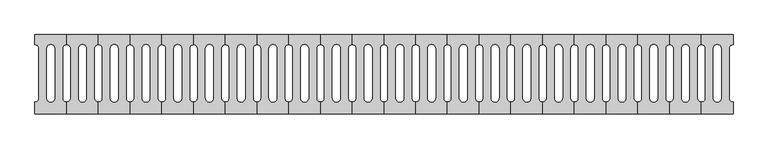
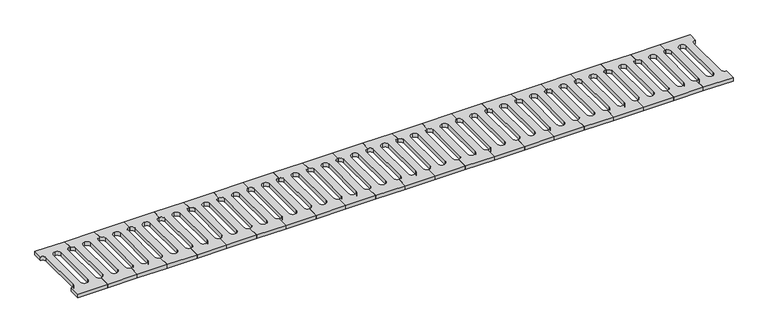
"""IFC4 building model written with IfcOpenShell, lengths in millimetres: proxy geometry, 排水沟盖板 : 排水沟盖板."""

from ifc_helpers import new_model, si_unit, point, frame, frame_2d, origin, place, context, project, spatial, polyline, circle_curve, trimmed, segment, composite_curve, outline, extrude, source, transform, mapped, element, save


def generic_models_7e917ab8(model_context):
    return source(origin(), model_context, "Body", "SweptSolid", [
        extrude(outline(composite_curve([segment(polyline([(9600.0, -200.0), (9440.0, -200.0), (9440.0, -140.0)]), True, "CONTINUOUS"), segment(trimmed(circle_curve(frame_2d((9440.0, -120.0)), 20.0), [point((9440.0, -140.0))], [point((9460.0, -120.0))], True, "CARTESIAN"), True, "CONTINUOUS"), segment(polyline([(9460.0, -120.0), (9460.0, 130.0)]), True, "CONTINUOUS"), segment(trimmed(circle_curve(frame_2d((9440.0, 130.0)), 20.0), [point((9460.0, 130.0))], [point((9440.0, 150.0))], True, "CARTESIAN"), True, "CONTINUOUS"), segment(polyline([(9440.0, 150.0), (9440.0, 200.0), (9600.0, 200.0), (9600.0, 150.0)]), True, "CONTINUOUS"), segment(trimmed(circle_curve(frame_2d((9600.0, 130.0)), 20.0), [point((9600.0, 150.0))], [point((9580.0, 130.0))], True, "CARTESIAN"), True, "CONTINUOUS"), segment(polyline([(9580.0, 130.0), (9580.0, -120.0)]), True, "CONTINUOUS"), segment(trimmed(circle_curve(frame_2d((9600.0, -120.0)), 20.0), [point((9580.0, -120.0))], [point((9600.0, -140.0))], True, "CARTESIAN"), True, "CONTINUOUS"), segment(polyline([(9600.0, -140.0), (9600.0, -200.0)]), True, "CONTINUOUS")], self_intersect=False), holes=[composite_curve([segment(polyline([(9500.0, 130.0), (9500.0, -120.0)]), True, "CONTINUOUS"), segment(trimmed(circle_curve(frame_2d((9520.0, -120.0)), 20.0), [point((9500.0, -120.0))], [point((9520.0, -140.0))], True, "CARTESIAN"), True, "CONTINUOUS"), segment(trimmed(circle_curve(frame_2d((9520.0, -120.0)), 20.0), [point((9520.0, -140.0))], [point((9540.0, -120.0))], True, "CARTESIAN"), True, "CONTINUOUS"), segment(polyline([(9540.0, -120.0), (9540.0, 130.0)]), True, "CONTINUOUS"), segment(trimmed(circle_curve(frame_2d((9520.0, 130.0)), 20.0), [point((9540.0, 130.0))], [point((9520.0, 150.0))], True, "CARTESIAN"), True, "CONTINUOUS"), segment(trimmed(circle_curve(frame_2d((9520.0, 130.0)), 20.0), [point((9520.0, 150.0))], [point((9500.0, 130.0))], True, "CARTESIAN"), True, "CONTINUOUS")], self_intersect=False)]), frame((0.0, 0.0, -20.0), z_axis=(0.0, 0.0, 1.0), x_axis=(1.0, 0.0, 0.0)), (0.0, 0.0, 1.0), 20.0),
        extrude(outline(composite_curve([segment(polyline([(9440.0, -200.0), (9280.0, -200.0), (9280.0, -140.0)]), True, "CONTINUOUS"), segment(trimmed(circle_curve(frame_2d((9280.0, -120.0)), 20.0), [point((9280.0, -140.0))], [point((9300.0, -120.0))], True, "CARTESIAN"), True, "CONTINUOUS"), segment(polyline([(9300.0, -120.0), (9300.0, 130.0)]), True, "CONTINUOUS"), segment(trimmed(circle_curve(frame_2d((9280.0, 130.0)), 20.0), [point((9300.0, 130.0))], [point((9280.0, 150.0))], True, "CARTESIAN"), True, "CONTINUOUS"), segment(polyline([(9280.0, 150.0), (9280.0, 200.0), (9440.0, 200.0), (9440.0, 150.0)]), True, "CONTINUOUS"), segment(trimmed(circle_curve(frame_2d((9440.0, 130.0)), 20.0), [point((9440.0, 150.0))], [point((9420.0, 130.0))], True, "CARTESIAN"), True, "CONTINUOUS"), segment(polyline([(9420.0, 130.0), (9420.0, -120.0)]), True, "CONTINUOUS"), segment(trimmed(circle_curve(frame_2d((9440.0, -120.0)), 20.0), [point((9420.0, -120.0))], [point((9440.0, -140.0))], True, "CARTESIAN"), True, "CONTINUOUS"), segment(polyline([(9440.0, -140.0), (9440.0, -200.0)]), True, "CONTINUOUS")], self_intersect=False), holes=[composite_curve([segment(polyline([(9340.0, 130.0), (9340.0, -120.0)]), True, "CONTINUOUS"), segment(trimmed(circle_curve(frame_2d((9360.0, -120.0)), 20.0), [point((9340.0, -120.0))], [point((9360.0, -140.0))], True, "CARTESIAN"), True, "CONTINUOUS"), segment(trimmed(circle_curve(frame_2d((9360.0, -120.0)), 20.0), [point((9360.0, -140.0))], [point((9380.0, -120.0))], True, "CARTESIAN"), True, "CONTINUOUS"), segment(polyline([(9380.0, -120.0), (9380.0, 130.0)]), True, "CONTINUOUS"), segment(trimmed(circle_curve(frame_2d((9360.0, 130.0)), 20.0), [point((9380.0, 130.0))], [point((9360.0, 150.0))], True, "CARTESIAN"), True, "CONTINUOUS"), segment(trimmed(circle_curve(frame_2d((9360.0, 130.0)), 20.0), [point((9360.0, 150.0))], [point((9340.0, 130.0))], True, "CARTESIAN"), True, "CONTINUOUS")], self_intersect=False)]), frame((0.0, 0.0, -20.0), z_axis=(0.0, 0.0, 1.0), x_axis=(1.0, 0.0, 0.0)), (0.0, 0.0, 1.0), 20.0),
        extrude(outline(composite_curve([segment(polyline([(9280.0, -200.0), (9120.0, -200.0), (9120.0, -140.0)]), True, "CONTINUOUS"), segment(trimmed(circle_curve(frame_2d((9120.0, -120.0)), 20.0), [point((9120.0, -140.0))], [point((9140.0, -120.0))], True, "CARTESIAN"), True, "CONTINUOUS"), segment(polyline([(9140.0, -120.0), (9140.0, 130.0)]), True, "CONTINUOUS"), segment(trimmed(circle_curve(frame_2d((9120.0, 130.0)), 20.0), [point((9140.0, 130.0))], [point((9120.0, 150.0))], True, "CARTESIAN"), True, "CONTINUOUS"), segment(polyline([(9120.0, 150.0), (9120.0, 200.0), (9280.0, 200.0), (9280.0, 150.0)]), True, "CONTINUOUS"), segment(trimmed(circle_curve(frame_2d((9280.0, 130.0)), 20.0), [point((9280.0, 150.0))], [point((9260.0, 130.0))], True, "CARTESIAN"), True, "CONTINUOUS"), segment(polyline([(9260.0, 130.0), (9260.0, -120.0)]), True, "CONTINUOUS"), segment(trimmed(circle_curve(frame_2d((9280.0, -120.0)), 20.0), [point((9260.0, -120.0))], [point((9280.0, -140.0))], True, "CARTESIAN"), True, "CONTINUOUS"), segment(polyline([(9280.0, -140.0), (9280.0, -200.0)]), True, "CONTINUOUS")], self_intersect=False), holes=[composite_curve([segment(polyline([(9180.0, 130.0), (9180.0, -120.0)]), True, "CONTINUOUS"), segment(trimmed(circle_curve(frame_2d((9200.0, -120.0)), 20.0), [point((9180.0, -120.0))], [point((9200.0, -140.0))], True, "CARTESIAN"), True, "CONTINUOUS"), segment(trimmed(circle_curve(frame_2d((9200.0, -120.0)), 20.0), [point((9200.0, -140.0))], [point((9220.0, -120.0))], True, "CARTESIAN"), True, "CONTINUOUS"), segment(polyline([(9220.0, -120.0), (9220.0, 130.0)]), True, "CONTINUOUS"), segment(trimmed(circle_curve(frame_2d((9200.0, 130.0)), 20.0), [point((9220.0, 130.0))], [point((9200.0, 150.0))], True, "CARTESIAN"), True, "CONTINUOUS"), segment(trimmed(circle_curve(frame_2d((9200.0, 130.0)), 20.0), [point((9200.0, 150.0))], [point((9180.0, 130.0))], True, "CARTESIAN"), True, "CONTINUOUS")], self_intersect=False)]), frame((0.0, 0.0, -20.0), z_axis=(0.0, 0.0, 1.0), x_axis=(1.0, 0.0, 0.0)), (0.0, 0.0, 1.0), 20.0),
        extrude(outline(composite_curve([segment(polyline([(9120.0, -200.0), (8960.0, -200.0), (8960.0, -140.0)]), True, "CONTINUOUS"), segment(trimmed(circle_curve(frame_2d((8960.0, -120.0)), 20.0), [point((8960.0, -140.0))], [point((8980.0, -120.0))], True, "CARTESIAN"), True, "CONTINUOUS"), segment(polyline([(8980.0, -120.0), (8980.0, 130.0)]), True, "CONTINUOUS"), segment(trimmed(circle_curve(frame_2d((8960.0, 130.0)), 20.0), [point((8980.0, 130.0))], [point((8960.0, 150.0))], True, "CARTESIAN"), True, "CONTINUOUS"), segment(polyline([(8960.0, 150.0), (8960.0, 200.0), (9120.0, 200.0), (9120.0, 150.0)]), True, "CONTINUOUS"), segment(trimmed(circle_curve(frame_2d((9120.0, 130.0)), 20.0), [point((9120.0, 150.0))], [point((9100.0, 130.0))], True, "CARTESIAN"), True, "CONTINUOUS"), segment(polyline([(9100.0, 130.0), (9100.0, -120.0)]), True, "CONTINUOUS"), segment(trimmed(circle_curve(frame_2d((9120.0, -120.0)), 20.0), [point((9100.0, -120.0))], [point((9120.0, -140.0))], True, "CARTESIAN"), True, "CONTINUOUS"), segment(polyline([(9120.0, -140.0), (9120.0, -200.0)]), True, "CONTINUOUS")], self_intersect=False), holes=[composite_curve([segment(polyline([(9020.0, 130.0), (9020.0, -120.0)]), True, "CONTINUOUS"), segment(trimmed(circle_curve(frame_2d((9040.0, -120.0)), 20.0), [point((9020.0, -120.0))], [point((9040.0, -140.0))], True, "CARTESIAN"), True, "CONTINUOUS"), segment(trimmed(circle_curve(frame_2d((9040.0, -120.0)), 20.0), [point((9040.0, -140.0))], [point((9060.0, -120.0))], True, "CARTESIAN"), True, "CONTINUOUS"), segment(polyline([(9060.0, -120.0), (9060.0, 130.0)]), True, "CONTINUOUS"), segment(trimmed(circle_curve(frame_2d((9040.0, 130.0)), 20.0), [point((9060.0, 130.0))], [point((9040.0, 150.0))], True, "CARTESIAN"), True, "CONTINUOUS"), segment(trimmed(circle_curve(frame_2d((9040.0, 130.0)), 20.0), [point((9040.0, 150.0))], [point((9020.0, 130.0))], True, "CARTESIAN"), True, "CONTINUOUS")], self_intersect=False)]), frame((0.0, 0.0, -20.0), z_axis=(0.0, 0.0, 1.0), x_axis=(1.0, 0.0, 0.0)), (0.0, 0.0, 1.0), 20.0),
        extrude(outline(composite_curve([segment(polyline([(8960.0, -200.0), (8800.0, -200.0), (8800.0, -140.0)]), True, "CONTINUOUS"), segment(trimmed(circle_curve(frame_2d((8800.0, -120.0)), 20.0), [point((8800.0, -140.0))], [point((8820.0, -120.0))], True, "CARTESIAN"), True, "CONTINUOUS"), segment(polyline([(8820.0, -120.0), (8820.0, 130.0)]), True, "CONTINUOUS"), segment(trimmed(circle_curve(frame_2d((8800.0, 130.0)), 20.0), [point((8820.0, 130.0))], [point((8800.0, 150.0))], True, "CARTESIAN"), True, "CONTINUOUS"), segment(polyline([(8800.0, 150.0), (8800.0, 200.0), (8960.0, 200.0), (8960.0, 150.0)]), True, "CONTINUOUS"), segment(trimmed(circle_curve(frame_2d((8960.0, 130.0)), 20.0), [point((8960.0, 150.0))], [point((8940.0, 130.0))], True, "CARTESIAN"), True, "CONTINUOUS"), segment(polyline([(8940.0, 130.0), (8940.0, -120.0)]), True, "CONTINUOUS"), segment(trimmed(circle_curve(frame_2d((8960.0, -120.0)), 20.0), [point((8940.0, -120.0))], [point((8960.0, -140.0))], True, "CARTESIAN"), True, "CONTINUOUS"), segment(polyline([(8960.0, -140.0), (8960.0, -200.0)]), True, "CONTINUOUS")], self_intersect=False), holes=[composite_curve([segment(polyline([(8860.0, 130.0), (8860.0, -120.0)]), True, "CONTINUOUS"), segment(trimmed(circle_curve(frame_2d((8880.0, -120.0)), 20.0), [point((8860.0, -120.0))], [point((8880.0, -140.0))], True, "CARTESIAN"), True, "CONTINUOUS"), segment(trimmed(circle_curve(frame_2d((8880.0, -120.0)), 20.0), [point((8880.0, -140.0))], [point((8900.0, -120.0))], True, "CARTESIAN"), True, "CONTINUOUS"), segment(polyline([(8900.0, -120.0), (8900.0, 130.0)]), True, "CONTINUOUS"), segment(trimmed(circle_curve(frame_2d((8880.0, 130.0)), 20.0), [point((8900.0, 130.0))], [point((8880.0, 150.0))], True, "CARTESIAN"), True, "CONTINUOUS"), segment(trimmed(circle_curve(frame_2d((8880.0, 130.0)), 20.0), [point((8880.0, 150.0))], [point((8860.0, 130.0))], True, "CARTESIAN"), True, "CONTINUOUS")], self_intersect=False)]), frame((0.0, 0.0, -20.0), z_axis=(0.0, 0.0, 1.0), x_axis=(1.0, 0.0, 0.0)), (0.0, 0.0, 1.0), 20.0),
        extrude(outline(composite_curve([segment(polyline([(8800.0, -200.0), (8640.0, -200.0), (8640.0, -140.0)]), True, "CONTINUOUS"), segment(trimmed(circle_curve(frame_2d((8640.0, -120.0)), 20.0), [point((8640.0, -140.0))], [point((8660.0, -120.0))], True, "CARTESIAN"), True, "CONTINUOUS"), segment(polyline([(8660.0, -120.0), (8660.0, 130.0)]), True, "CONTINUOUS"), segment(trimmed(circle_curve(frame_2d((8640.0, 130.0)), 20.0), [point((8660.0, 130.0))], [point((8640.0, 150.0))], True, "CARTESIAN"), True, "CONTINUOUS"), segment(polyline([(8640.0, 150.0), (8640.0, 200.0), (8800.0, 200.0), (8800.0, 150.0)]), True, "CONTINUOUS"), segment(trimmed(circle_curve(frame_2d((8800.0, 130.0)), 20.0), [point((8800.0, 150.0))], [point((8780.0, 130.0))], True, "CARTESIAN"), True, "CONTINUOUS"), segment(polyline([(8780.0, 130.0), (8780.0, -120.0)]), True, "CONTINUOUS"), segment(trimmed(circle_curve(frame_2d((8800.0, -120.0)), 20.0), [point((8780.0, -120.0))], [point((8800.0, -140.0))], True, "CARTESIAN"), True, "CONTINUOUS"), segment(polyline([(8800.0, -140.0), (8800.0, -200.0)]), True, "CONTINUOUS")], self_intersect=False), holes=[composite_curve([segment(polyline([(8700.0, 130.0), (8700.0, -120.0)]), True, "CONTINUOUS"), segment(trimmed(circle_curve(frame_2d((8720.0, -120.0)), 20.0), [point((8700.0, -120.0))], [point((8720.0, -140.0))], True, "CARTESIAN"), True, "CONTINUOUS"), segment(trimmed(circle_curve(frame_2d((8720.0, -120.0)), 20.0), [point((8720.0, -140.0))], [point((8740.0, -120.0))], True, "CARTESIAN"), True, "CONTINUOUS"), segment(polyline([(8740.0, -120.0), (8740.0, 130.0)]), True, "CONTINUOUS"), segment(trimmed(circle_curve(frame_2d((8720.0, 130.0)), 20.0), [point((8740.0, 130.0))], [point((8720.0, 150.0))], True, "CARTESIAN"), True, "CONTINUOUS"), segment(trimmed(circle_curve(frame_2d((8720.0, 130.0)), 20.0), [point((8720.0, 150.0))], [point((8700.0, 130.0))], True, "CARTESIAN"), True, "CONTINUOUS")], self_intersect=False)]), frame((0.0, 0.0, -20.0), z_axis=(0.0, 0.0, 1.0), x_axis=(1.0, 0.0, 0.0)), (0.0, 0.0, 1.0), 20.0),
        extrude(outline(composite_curve([segment(polyline([(8640.0, -200.0), (8480.0, -200.0), (8480.0, -140.0)]), True, "CONTINUOUS"), segment(trimmed(circle_curve(frame_2d((8480.0, -120.0)), 20.0), [point((8480.0, -140.0))], [point((8500.0, -120.0))], True, "CARTESIAN"), True, "CONTINUOUS"), segment(polyline([(8500.0, -120.0), (8500.0, 130.0)]), True, "CONTINUOUS"), segment(trimmed(circle_curve(frame_2d((8480.0, 130.0)), 20.0), [point((8500.0, 130.0))], [point((8480.0, 150.0))], True, "CARTESIAN"), True, "CONTINUOUS"), segment(polyline([(8480.0, 150.0), (8480.0, 200.0), (8640.0, 200.0), (8640.0, 150.0)]), True, "CONTINUOUS"), segment(trimmed(circle_curve(frame_2d((8640.0, 130.0)), 20.0), [point((8640.0, 150.0))], [point((8620.0, 130.0))], True, "CARTESIAN"), True, "CONTINUOUS"), segment(polyline([(8620.0, 130.0), (8620.0, -120.0)]), True, "CONTINUOUS"), segment(trimmed(circle_curve(frame_2d((8640.0, -120.0)), 20.0), [point((8620.0, -120.0))], [point((8640.0, -140.0))], True, "CARTESIAN"), True, "CONTINUOUS"), segment(polyline([(8640.0, -140.0), (8640.0, -200.0)]), True, "CONTINUOUS")], self_intersect=False), holes=[composite_curve([segment(polyline([(8540.0, 130.0), (8540.0, -120.0)]), True, "CONTINUOUS"), segment(trimmed(circle_curve(frame_2d((8560.0, -120.0)), 20.0), [point((8540.0, -120.0))], [point((8560.0, -140.0))], True, "CARTESIAN"), True, "CONTINUOUS"), segment(trimmed(circle_curve(frame_2d((8560.0, -120.0)), 20.0), [point((8560.0, -140.0))], [point((8580.0, -120.0))], True, "CARTESIAN"), True, "CONTINUOUS"), segment(polyline([(8580.0, -120.0), (8580.0, 130.0)]), True, "CONTINUOUS"), segment(trimmed(circle_curve(frame_2d((8560.0, 130.0)), 20.0), [point((8580.0, 130.0))], [point((8560.0, 150.0))], True, "CARTESIAN"), True, "CONTINUOUS"), segment(trimmed(circle_curve(frame_2d((8560.0, 130.0)), 20.0), [point((8560.0, 150.0))], [point((8540.0, 130.0))], True, "CARTESIAN"), True, "CONTINUOUS")], self_intersect=False)]), frame((0.0, 0.0, -20.0), z_axis=(0.0, 0.0, 1.0), x_axis=(1.0, 0.0, 0.0)), (0.0, 0.0, 1.0), 20.0),
        extrude(outline(composite_curve([segment(polyline([(8480.0, -200.0), (8320.0, -200.0), (8320.0, -140.0)]), True, "CONTINUOUS"), segment(trimmed(circle_curve(frame_2d((8320.0, -120.0)), 20.0), [point((8320.0, -140.0))], [point((8340.0, -120.0))], True, "CARTESIAN"), True, "CONTINUOUS"), segment(polyline([(8340.0, -120.0), (8340.0, 130.0)]), True, "CONTINUOUS"), segment(trimmed(circle_curve(frame_2d((8320.0, 130.0)), 20.0), [point((8340.0, 130.0))], [point((8320.0, 150.0))], True, "CARTESIAN"), True, "CONTINUOUS"), segment(polyline([(8320.0, 150.0), (8320.0, 200.0), (8480.0, 200.0), (8480.0, 150.0)]), True, "CONTINUOUS"), segment(trimmed(circle_curve(frame_2d((8480.0, 130.0)), 20.0), [point((8480.0, 150.0))], [point((8460.0, 130.0))], True, "CARTESIAN"), True, "CONTINUOUS"), segment(polyline([(8460.0, 130.0), (8460.0, -120.0)]), True, "CONTINUOUS"), segment(trimmed(circle_curve(frame_2d((8480.0, -120.0)), 20.0), [point((8460.0, -120.0))], [point((8480.0, -140.0))], True, "CARTESIAN"), True, "CONTINUOUS"), segment(polyline([(8480.0, -140.0), (8480.0, -200.0)]), True, "CONTINUOUS")], self_intersect=False), holes=[composite_curve([segment(polyline([(8380.0, 130.0), (8380.0, -120.0)]), True, "CONTINUOUS"), segment(trimmed(circle_curve(frame_2d((8400.0, -120.0)), 20.0), [point((8380.0, -120.0))], [point((8400.0, -140.0))], True, "CARTESIAN"), True, "CONTINUOUS"), segment(trimmed(circle_curve(frame_2d((8400.0, -120.0)), 20.0), [point((8400.0, -140.0))], [point((8420.0, -120.0))], True, "CARTESIAN"), True, "CONTINUOUS"), segment(polyline([(8420.0, -120.0), (8420.0, 130.0)]), True, "CONTINUOUS"), segment(trimmed(circle_curve(frame_2d((8400.0, 130.0)), 20.0), [point((8420.0, 130.0))], [point((8400.0, 150.0))], True, "CARTESIAN"), True, "CONTINUOUS"), segment(trimmed(circle_curve(frame_2d((8400.0, 130.0)), 20.0), [point((8400.0, 150.0))], [point((8380.0, 130.0))], True, "CARTESIAN"), True, "CONTINUOUS")], self_intersect=False)]), frame((0.0, 0.0, -20.0), z_axis=(0.0, 0.0, 1.0), x_axis=(1.0, 0.0, 0.0)), (0.0, 0.0, 1.0), 20.0),
        extrude(outline(composite_curve([segment(polyline([(8320.0, -200.0), (8160.0, -200.0), (8160.0, -140.0)]), True, "CONTINUOUS"), segment(trimmed(circle_curve(frame_2d((8160.0, -120.0)), 20.0), [point((8160.0, -140.0))], [point((8180.0, -120.0))], True, "CARTESIAN"), True, "CONTINUOUS"), segment(polyline([(8180.0, -120.0), (8180.0, 130.0)]), True, "CONTINUOUS"), segment(trimmed(circle_curve(frame_2d((8160.0, 130.0)), 20.0), [point((8180.0, 130.0))], [point((8160.0, 150.0))], True, "CARTESIAN"), True, "CONTINUOUS"), segment(polyline([(8160.0, 150.0), (8160.0, 200.0), (8320.0, 200.0), (8320.0, 150.0)]), True, "CONTINUOUS"), segment(trimmed(circle_curve(frame_2d((8320.0, 130.0)), 20.0), [point((8320.0, 150.0))], [point((8300.0, 130.0))], True, "CARTESIAN"), True, "CONTINUOUS"), segment(polyline([(8300.0, 130.0), (8300.0, -120.0)]), True, "CONTINUOUS"), segment(trimmed(circle_curve(frame_2d((8320.0, -120.0)), 20.0), [point((8300.0, -120.0))], [point((8320.0, -140.0))], True, "CARTESIAN"), True, "CONTINUOUS"), segment(polyline([(8320.0, -140.0), (8320.0, -200.0)]), True, "CONTINUOUS")], self_intersect=False), holes=[composite_curve([segment(polyline([(8220.0, 130.0), (8220.0, -120.0)]), True, "CONTINUOUS"), segment(trimmed(circle_curve(frame_2d((8240.0, -120.0)), 20.0), [point((8220.0, -120.0))], [point((8240.0, -140.0))], True, "CARTESIAN"), True, "CONTINUOUS"), segment(trimmed(circle_curve(frame_2d((8240.0, -120.0)), 20.0), [point((8240.0, -140.0))], [point((8260.0, -120.0))], True, "CARTESIAN"), True, "CONTINUOUS"), segment(polyline([(8260.0, -120.0), (8260.0, 130.0)]), True, "CONTINUOUS"), segment(trimmed(circle_curve(frame_2d((8240.0, 130.0)), 20.0), [point((8260.0, 130.0))], [point((8240.0, 150.0))], True, "CARTESIAN"), True, "CONTINUOUS"), segment(trimmed(circle_curve(frame_2d((8240.0, 130.0)), 20.0), [point((8240.0, 150.0))], [point((8220.0, 130.0))], True, "CARTESIAN"), True, "CONTINUOUS")], self_intersect=False)]), frame((0.0, 0.0, -20.0), z_axis=(0.0, 0.0, 1.0), x_axis=(1.0, 0.0, 0.0)), (0.0, 0.0, 1.0), 20.0),
        extrude(outline(composite_curve([segment(polyline([(8160.0, -200.0), (8000.0, -200.0), (8000.0, -140.0)]), True, "CONTINUOUS"), segment(trimmed(circle_curve(frame_2d((8000.0, -120.0)), 20.0), [point((8000.0, -140.0))], [point((8020.0, -120.0))], True, "CARTESIAN"), True, "CONTINUOUS"), segment(polyline([(8020.0, -120.0), (8020.0, 130.0)]), True, "CONTINUOUS"), segment(trimmed(circle_curve(frame_2d((8000.0, 130.0)), 20.0), [point((8020.0, 130.0))], [point((8000.0, 150.0))], True, "CARTESIAN"), True, "CONTINUOUS"), segment(polyline([(8000.0, 150.0), (8000.0, 200.0), (8160.0, 200.0), (8160.0, 150.0)]), True, "CONTINUOUS"), segment(trimmed(circle_curve(frame_2d((8160.0, 130.0)), 20.0), [point((8160.0, 150.0))], [point((8140.0, 130.0))], True, "CARTESIAN"), True, "CONTINUOUS"), segment(polyline([(8140.0, 130.0), (8140.0, -120.0)]), True, "CONTINUOUS"), segment(trimmed(circle_curve(frame_2d((8160.0, -120.0)), 20.0), [point((8140.0, -120.0))], [point((8160.0, -140.0))], True, "CARTESIAN"), True, "CONTINUOUS"), segment(polyline([(8160.0, -140.0), (8160.0, -200.0)]), True, "CONTINUOUS")], self_intersect=False), holes=[composite_curve([segment(polyline([(8060.0, 130.0), (8060.0, -120.0)]), True, "CONTINUOUS"), segment(trimmed(circle_curve(frame_2d((8080.0, -120.0)), 20.0), [point((8060.0, -120.0))], [point((8080.0, -140.0))], True, "CARTESIAN"), True, "CONTINUOUS"), segment(trimmed(circle_curve(frame_2d((8080.0, -120.0)), 20.0), [point((8080.0, -140.0))], [point((8100.0, -120.0))], True, "CARTESIAN"), True, "CONTINUOUS"), segment(polyline([(8100.0, -120.0), (8100.0, 130.0)]), True, "CONTINUOUS"), segment(trimmed(circle_curve(frame_2d((8080.0, 130.0)), 20.0), [point((8100.0, 130.0))], [point((8080.0, 150.0))], True, "CARTESIAN"), True, "CONTINUOUS"), segment(trimmed(circle_curve(frame_2d((8080.0, 130.0)), 20.0), [point((8080.0, 150.0))], [point((8060.0, 130.0))], True, "CARTESIAN"), True, "CONTINUOUS")], self_intersect=False)]), frame((0.0, 0.0, -20.0), z_axis=(0.0, 0.0, 1.0), x_axis=(1.0, 0.0, 0.0)), (0.0, 0.0, 1.0), 20.0),
        extrude(outline(composite_curve([segment(polyline([(8000.0, -200.0), (7840.0, -200.0), (7840.0, -140.0)]), True, "CONTINUOUS"), segment(trimmed(circle_curve(frame_2d((7840.0, -120.0)), 20.0), [point((7840.0, -140.0))], [point((7860.0, -120.0))], True, "CARTESIAN"), True, "CONTINUOUS"), segment(polyline([(7860.0, -120.0), (7860.0, 130.0)]), True, "CONTINUOUS"), segment(trimmed(circle_curve(frame_2d((7840.0, 130.0)), 20.0), [point((7860.0, 130.0))], [point((7840.0, 150.0))], True, "CARTESIAN"), True, "CONTINUOUS"), segment(polyline([(7840.0, 150.0), (7840.0, 200.0), (8000.0, 200.0), (8000.0, 150.0)]), True, "CONTINUOUS"), segment(trimmed(circle_curve(frame_2d((8000.0, 130.0)), 20.0), [point((8000.0, 150.0))], [point((7980.0, 130.0))], True, "CARTESIAN"), True, "CONTINUOUS"), segment(polyline([(7980.0, 130.0), (7980.0, -120.0)]), True, "CONTINUOUS"), segment(trimmed(circle_curve(frame_2d((8000.0, -120.0)), 20.0), [point((7980.0, -120.0))], [point((8000.0, -140.0))], True, "CARTESIAN"), True, "CONTINUOUS"), segment(polyline([(8000.0, -140.0), (8000.0, -200.0)]), True, "CONTINUOUS")], self_intersect=False), holes=[composite_curve([segment(polyline([(7900.0, 130.0), (7900.0, -120.0)]), True, "CONTINUOUS"), segment(trimmed(circle_curve(frame_2d((7920.0, -120.0)), 20.0), [point((7900.0, -120.0))], [point((7920.0, -140.0))], True, "CARTESIAN"), True, "CONTINUOUS"), segment(trimmed(circle_curve(frame_2d((7920.0, -120.0)), 20.0), [point((7920.0, -140.0))], [point((7940.0, -120.0))], True, "CARTESIAN"), True, "CONTINUOUS"), segment(polyline([(7940.0, -120.0), (7940.0, 130.0)]), True, "CONTINUOUS"), segment(trimmed(circle_curve(frame_2d((7920.0, 130.0)), 20.0), [point((7940.0, 130.0))], [point((7920.0, 150.0))], True, "CARTESIAN"), True, "CONTINUOUS"), segment(trimmed(circle_curve(frame_2d((7920.0, 130.0)), 20.0), [point((7920.0, 150.0))], [point((7900.0, 130.0))], True, "CARTESIAN"), True, "CONTINUOUS")], self_intersect=False)]), frame((0.0, 0.0, -20.0), z_axis=(0.0, 0.0, 1.0), x_axis=(1.0, 0.0, 0.0)), (0.0, 0.0, 1.0), 20.0),
        extrude(outline(composite_curve([segment(polyline([(7840.0, -200.0), (7680.0, -200.0), (7680.0, -140.0)]), True, "CONTINUOUS"), segment(trimmed(circle_curve(frame_2d((7680.0, -120.0)), 20.0), [point((7680.0, -140.0))], [point((7700.0, -120.0))], True, "CARTESIAN"), True, "CONTINUOUS"), segment(polyline([(7700.0, -120.0), (7700.0, 130.0)]), True, "CONTINUOUS"), segment(trimmed(circle_curve(frame_2d((7680.0, 130.0)), 20.0), [point((7700.0, 130.0))], [point((7680.0, 150.0))], True, "CARTESIAN"), True, "CONTINUOUS"), segment(polyline([(7680.0, 150.0), (7680.0, 200.0), (7840.0, 200.0), (7840.0, 150.0)]), True, "CONTINUOUS"), segment(trimmed(circle_curve(frame_2d((7840.0, 130.0)), 20.0), [point((7840.0, 150.0))], [point((7820.0, 130.0))], True, "CARTESIAN"), True, "CONTINUOUS"), segment(polyline([(7820.0, 130.0), (7820.0, -120.0)]), True, "CONTINUOUS"), segment(trimmed(circle_curve(frame_2d((7840.0, -120.0)), 20.0), [point((7820.0, -120.0))], [point((7840.0, -140.0))], True, "CARTESIAN"), True, "CONTINUOUS"), segment(polyline([(7840.0, -140.0), (7840.0, -200.0)]), True, "CONTINUOUS")], self_intersect=False), holes=[composite_curve([segment(polyline([(7740.0, 130.0), (7740.0, -120.0)]), True, "CONTINUOUS"), segment(trimmed(circle_curve(frame_2d((7760.0, -120.0)), 20.0), [point((7740.0, -120.0))], [point((7760.0, -140.0))], True, "CARTESIAN"), True, "CONTINUOUS"), segment(trimmed(circle_curve(frame_2d((7760.0, -120.0)), 20.0), [point((7760.0, -140.0))], [point((7780.0, -120.0))], True, "CARTESIAN"), True, "CONTINUOUS"), segment(polyline([(7780.0, -120.0), (7780.0, 130.0)]), True, "CONTINUOUS"), segment(trimmed(circle_curve(frame_2d((7760.0, 130.0)), 20.0), [point((7780.0, 130.0))], [point((7760.0, 150.0))], True, "CARTESIAN"), True, "CONTINUOUS"), segment(trimmed(circle_curve(frame_2d((7760.0, 130.0)), 20.0), [point((7760.0, 150.0))], [point((7740.0, 130.0))], True, "CARTESIAN"), True, "CONTINUOUS")], self_intersect=False)]), frame((0.0, 0.0, -20.0), z_axis=(0.0, 0.0, 1.0), x_axis=(1.0, 0.0, 0.0)), (0.0, 0.0, 1.0), 20.0),
        extrude(outline(composite_curve([segment(polyline([(7680.0, -200.0), (7520.0, -200.0), (7520.0, -140.0)]), True, "CONTINUOUS"), segment(trimmed(circle_curve(frame_2d((7520.0, -120.0)), 20.0), [point((7520.0, -140.0))], [point((7540.0, -120.0))], True, "CARTESIAN"), True, "CONTINUOUS"), segment(polyline([(7540.0, -120.0), (7540.0, 130.0)]), True, "CONTINUOUS"), segment(trimmed(circle_curve(frame_2d((7520.0, 130.0)), 20.0), [point((7540.0, 130.0))], [point((7520.0, 150.0))], True, "CARTESIAN"), True, "CONTINUOUS"), segment(polyline([(7520.0, 150.0), (7520.0, 200.0), (7680.0, 200.0), (7680.0, 150.0)]), True, "CONTINUOUS"), segment(trimmed(circle_curve(frame_2d((7680.0, 130.0)), 20.0), [point((7680.0, 150.0))], [point((7660.0, 130.0))], True, "CARTESIAN"), True, "CONTINUOUS"), segment(polyline([(7660.0, 130.0), (7660.0, -120.0)]), True, "CONTINUOUS"), segment(trimmed(circle_curve(frame_2d((7680.0, -120.0)), 20.0), [point((7660.0, -120.0))], [point((7680.0, -140.0))], True, "CARTESIAN"), True, "CONTINUOUS"), segment(polyline([(7680.0, -140.0), (7680.0, -200.0)]), True, "CONTINUOUS")], self_intersect=False), holes=[composite_curve([segment(polyline([(7580.0, 130.0), (7580.0, -120.0)]), True, "CONTINUOUS"), segment(trimmed(circle_curve(frame_2d((7600.0, -120.0)), 20.0), [point((7580.0, -120.0))], [point((7600.0, -140.0))], True, "CARTESIAN"), True, "CONTINUOUS"), segment(trimmed(circle_curve(frame_2d((7600.0, -120.0)), 20.0), [point((7600.0, -140.0))], [point((7620.0, -120.0))], True, "CARTESIAN"), True, "CONTINUOUS"), segment(polyline([(7620.0, -120.0), (7620.0, 130.0)]), True, "CONTINUOUS"), segment(trimmed(circle_curve(frame_2d((7600.0, 130.0)), 20.0), [point((7620.0, 130.0))], [point((7600.0, 150.0))], True, "CARTESIAN"), True, "CONTINUOUS"), segment(trimmed(circle_curve(frame_2d((7600.0, 130.0)), 20.0), [point((7600.0, 150.0))], [point((7580.0, 130.0))], True, "CARTESIAN"), True, "CONTINUOUS")], self_intersect=False)]), frame((0.0, 0.0, -20.0), z_axis=(0.0, 0.0, 1.0), x_axis=(1.0, 0.0, 0.0)), (0.0, 0.0, 1.0), 20.0),
        extrude(outline(composite_curve([segment(polyline([(7520.0, -200.0), (7360.0, -200.0), (7360.0, -140.0)]), True, "CONTINUOUS"), segment(trimmed(circle_curve(frame_2d((7360.0, -120.0)), 20.0), [point((7360.0, -140.0))], [point((7380.0, -120.0))], True, "CARTESIAN"), True, "CONTINUOUS"), segment(polyline([(7380.0, -120.0), (7380.0, 130.0)]), True, "CONTINUOUS"), segment(trimmed(circle_curve(frame_2d((7360.0, 130.0)), 20.0), [point((7380.0, 130.0))], [point((7360.0, 150.0))], True, "CARTESIAN"), True, "CONTINUOUS"), segment(polyline([(7360.0, 150.0), (7360.0, 200.0), (7520.0, 200.0), (7520.0, 150.0)]), True, "CONTINUOUS"), segment(trimmed(circle_curve(frame_2d((7520.0, 130.0)), 20.0), [point((7520.0, 150.0))], [point((7500.0, 130.0))], True, "CARTESIAN"), True, "CONTINUOUS"), segment(polyline([(7500.0, 130.0), (7500.0, -120.0)]), True, "CONTINUOUS"), segment(trimmed(circle_curve(frame_2d((7520.0, -120.0)), 20.0), [point((7500.0, -120.0))], [point((7520.0, -140.0))], True, "CARTESIAN"), True, "CONTINUOUS"), segment(polyline([(7520.0, -140.0), (7520.0, -200.0)]), True, "CONTINUOUS")], self_intersect=False), holes=[composite_curve([segment(polyline([(7420.0, 130.0), (7420.0, -120.0)]), True, "CONTINUOUS"), segment(trimmed(circle_curve(frame_2d((7440.0, -120.0)), 20.0), [point((7420.0, -120.0))], [point((7440.0, -140.0))], True, "CARTESIAN"), True, "CONTINUOUS"), segment(trimmed(circle_curve(frame_2d((7440.0, -120.0)), 20.0), [point((7440.0, -140.0))], [point((7460.0, -120.0))], True, "CARTESIAN"), True, "CONTINUOUS"), segment(polyline([(7460.0, -120.0), (7460.0, 130.0)]), True, "CONTINUOUS"), segment(trimmed(circle_curve(frame_2d((7440.0, 130.0)), 20.0), [point((7460.0, 130.0))], [point((7440.0, 150.0))], True, "CARTESIAN"), True, "CONTINUOUS"), segment(trimmed(circle_curve(frame_2d((7440.0, 130.0)), 20.0), [point((7440.0, 150.0))], [point((7420.0, 130.0))], True, "CARTESIAN"), True, "CONTINUOUS")], self_intersect=False)]), frame((0.0, 0.0, -20.0), z_axis=(0.0, 0.0, 1.0), x_axis=(1.0, 0.0, 0.0)), (0.0, 0.0, 1.0), 20.0),
        extrude(outline(composite_curve([segment(polyline([(7360.0, -200.0), (7200.0, -200.0), (7200.0, -140.0)]), True, "CONTINUOUS"), segment(trimmed(circle_curve(frame_2d((7200.0, -120.0)), 20.0), [point((7200.0, -140.0))], [point((7220.0, -120.0))], True, "CARTESIAN"), True, "CONTINUOUS"), segment(polyline([(7220.0, -120.0), (7220.0, 130.0)]), True, "CONTINUOUS"), segment(trimmed(circle_curve(frame_2d((7200.0, 130.0)), 20.0), [point((7220.0, 130.0))], [point((7200.0, 150.0))], True, "CARTESIAN"), True, "CONTINUOUS"), segment(polyline([(7200.0, 150.0), (7200.0, 200.0), (7360.0, 200.0), (7360.0, 150.0)]), True, "CONTINUOUS"), segment(trimmed(circle_curve(frame_2d((7360.0, 130.0)), 20.0), [point((7360.0, 150.0))], [point((7340.0, 130.0))], True, "CARTESIAN"), True, "CONTINUOUS"), segment(polyline([(7340.0, 130.0), (7340.0, -120.0)]), True, "CONTINUOUS"), segment(trimmed(circle_curve(frame_2d((7360.0, -120.0)), 20.0), [point((7340.0, -120.0))], [point((7360.0, -140.0))], True, "CARTESIAN"), True, "CONTINUOUS"), segment(polyline([(7360.0, -140.0), (7360.0, -200.0)]), True, "CONTINUOUS")], self_intersect=False), holes=[composite_curve([segment(polyline([(7260.0, 130.0), (7260.0, -120.0)]), True, "CONTINUOUS"), segment(trimmed(circle_curve(frame_2d((7280.0, -120.0)), 20.0), [point((7260.0, -120.0))], [point((7280.0, -140.0))], True, "CARTESIAN"), True, "CONTINUOUS"), segment(trimmed(circle_curve(frame_2d((7280.0, -120.0)), 20.0), [point((7280.0, -140.0))], [point((7300.0, -120.0))], True, "CARTESIAN"), True, "CONTINUOUS"), segment(polyline([(7300.0, -120.0), (7300.0, 130.0)]), True, "CONTINUOUS"), segment(trimmed(circle_curve(frame_2d((7280.0, 130.0)), 20.0), [point((7300.0, 130.0))], [point((7280.0, 150.0))], True, "CARTESIAN"), True, "CONTINUOUS"), segment(trimmed(circle_curve(frame_2d((7280.0, 130.0)), 20.0), [point((7280.0, 150.0))], [point((7260.0, 130.0))], True, "CARTESIAN"), True, "CONTINUOUS")], self_intersect=False)]), frame((0.0, 0.0, -20.0), z_axis=(0.0, 0.0, 1.0), x_axis=(1.0, 0.0, 0.0)), (0.0, 0.0, 1.0), 20.0),
        extrude(outline(composite_curve([segment(polyline([(7200.0, -200.0), (7040.0, -200.0), (7040.0, -140.0)]), True, "CONTINUOUS"), segment(trimmed(circle_curve(frame_2d((7040.0, -120.0)), 20.0), [point((7040.0, -140.0))], [point((7060.0, -120.0))], True, "CARTESIAN"), True, "CONTINUOUS"), segment(polyline([(7060.0, -120.0), (7060.0, 130.0)]), True, "CONTINUOUS"), segment(trimmed(circle_curve(frame_2d((7040.0, 130.0)), 20.0), [point((7060.0, 130.0))], [point((7040.0, 150.0))], True, "CARTESIAN"), True, "CONTINUOUS"), segment(polyline([(7040.0, 150.0), (7040.0, 200.0), (7200.0, 200.0), (7200.0, 150.0)]), True, "CONTINUOUS"), segment(trimmed(circle_curve(frame_2d((7200.0, 130.0)), 20.0), [point((7200.0, 150.0))], [point((7180.0, 130.0))], True, "CARTESIAN"), True, "CONTINUOUS"), segment(polyline([(7180.0, 130.0), (7180.0, -120.0)]), True, "CONTINUOUS"), segment(trimmed(circle_curve(frame_2d((7200.0, -120.0)), 20.0), [point((7180.0, -120.0))], [point((7200.0, -140.0))], True, "CARTESIAN"), True, "CONTINUOUS"), segment(polyline([(7200.0, -140.0), (7200.0, -200.0)]), True, "CONTINUOUS")], self_intersect=False), holes=[composite_curve([segment(polyline([(7100.0, 130.0), (7100.0, -120.0)]), True, "CONTINUOUS"), segment(trimmed(circle_curve(frame_2d((7120.0, -120.0)), 20.0), [point((7100.0, -120.0))], [point((7120.0, -140.0))], True, "CARTESIAN"), True, "CONTINUOUS"), segment(trimmed(circle_curve(frame_2d((7120.0, -120.0)), 20.0), [point((7120.0, -140.0))], [point((7140.0, -120.0))], True, "CARTESIAN"), True, "CONTINUOUS"), segment(polyline([(7140.0, -120.0), (7140.0, 130.0)]), True, "CONTINUOUS"), segment(trimmed(circle_curve(frame_2d((7120.0, 130.0)), 20.0), [point((7140.0, 130.0))], [point((7120.0, 150.0))], True, "CARTESIAN"), True, "CONTINUOUS"), segment(trimmed(circle_curve(frame_2d((7120.0, 130.0)), 20.0), [point((7120.0, 150.0))], [point((7100.0, 130.0))], True, "CARTESIAN"), True, "CONTINUOUS")], self_intersect=False)]), frame((0.0, 0.0, -20.0), z_axis=(0.0, 0.0, 1.0), x_axis=(1.0, 0.0, 0.0)), (0.0, 0.0, 1.0), 20.0),
        extrude(outline(composite_curve([segment(polyline([(7040.0, -200.0), (6880.0, -200.0), (6880.0, -140.0)]), True, "CONTINUOUS"), segment(trimmed(circle_curve(frame_2d((6880.0, -120.0)), 20.0), [point((6880.0, -140.0))], [point((6900.0, -120.0))], True, "CARTESIAN"), True, "CONTINUOUS"), segment(polyline([(6900.0, -120.0), (6900.0, 130.0)]), True, "CONTINUOUS"), segment(trimmed(circle_curve(frame_2d((6880.0, 130.0)), 20.0), [point((6900.0, 130.0))], [point((6880.0, 150.0))], True, "CARTESIAN"), True, "CONTINUOUS"), segment(polyline([(6880.0, 150.0), (6880.0, 200.0), (7040.0, 200.0), (7040.0, 150.0)]), True, "CONTINUOUS"), segment(trimmed(circle_curve(frame_2d((7040.0, 130.0)), 20.0), [point((7040.0, 150.0))], [point((7020.0, 130.0))], True, "CARTESIAN"), True, "CONTINUOUS"), segment(polyline([(7020.0, 130.0), (7020.0, -120.0)]), True, "CONTINUOUS"), segment(trimmed(circle_curve(frame_2d((7040.0, -120.0)), 20.0), [point((7020.0, -120.0))], [point((7040.0, -140.0))], True, "CARTESIAN"), True, "CONTINUOUS"), segment(polyline([(7040.0, -140.0), (7040.0, -200.0)]), True, "CONTINUOUS")], self_intersect=False), holes=[composite_curve([segment(polyline([(6940.0, 130.0), (6940.0, -120.0)]), True, "CONTINUOUS"), segment(trimmed(circle_curve(frame_2d((6960.0, -120.0)), 20.0), [point((6940.0, -120.0))], [point((6960.0, -140.0))], True, "CARTESIAN"), True, "CONTINUOUS"), segment(trimmed(circle_curve(frame_2d((6960.0, -120.0)), 20.0), [point((6960.0, -140.0))], [point((6980.0, -120.0))], True, "CARTESIAN"), True, "CONTINUOUS"), segment(polyline([(6980.0, -120.0), (6980.0, 130.0)]), True, "CONTINUOUS"), segment(trimmed(circle_curve(frame_2d((6960.0, 130.0)), 20.0), [point((6980.0, 130.0))], [point((6960.0, 150.0))], True, "CARTESIAN"), True, "CONTINUOUS"), segment(trimmed(circle_curve(frame_2d((6960.0, 130.0)), 20.0), [point((6960.0, 150.0))], [point((6940.0, 130.0))], True, "CARTESIAN"), True, "CONTINUOUS")], self_intersect=False)]), frame((0.0, 0.0, -20.0), z_axis=(0.0, 0.0, 1.0), x_axis=(1.0, 0.0, 0.0)), (0.0, 0.0, 1.0), 20.0),
        extrude(outline(composite_curve([segment(polyline([(6880.0, -200.0), (6720.0, -200.0), (6720.0, -140.0)]), True, "CONTINUOUS"), segment(trimmed(circle_curve(frame_2d((6720.0, -120.0)), 20.0), [point((6720.0, -140.0))], [point((6740.0, -120.0))], True, "CARTESIAN"), True, "CONTINUOUS"), segment(polyline([(6740.0, -120.0), (6740.0, 130.0)]), True, "CONTINUOUS"), segment(trimmed(circle_curve(frame_2d((6720.0, 130.0)), 20.0), [point((6740.0, 130.0))], [point((6720.0, 150.0))], True, "CARTESIAN"), True, "CONTINUOUS"), segment(polyline([(6720.0, 150.0), (6720.0, 200.0), (6880.0, 200.0), (6880.0, 150.0)]), True, "CONTINUOUS"), segment(trimmed(circle_curve(frame_2d((6880.0, 130.0)), 20.0), [point((6880.0, 150.0))], [point((6860.0, 130.0))], True, "CARTESIAN"), True, "CONTINUOUS"), segment(polyline([(6860.0, 130.0), (6860.0, -120.0)]), True, "CONTINUOUS"), segment(trimmed(circle_curve(frame_2d((6880.0, -120.0)), 20.0), [point((6860.0, -120.0))], [point((6880.0, -140.0))], True, "CARTESIAN"), True, "CONTINUOUS"), segment(polyline([(6880.0, -140.0), (6880.0, -200.0)]), True, "CONTINUOUS")], self_intersect=False), holes=[composite_curve([segment(polyline([(6780.0, 130.0), (6780.0, -120.0)]), True, "CONTINUOUS"), segment(trimmed(circle_curve(frame_2d((6800.0, -120.0)), 20.0), [point((6780.0, -120.0))], [point((6800.0, -140.0))], True, "CARTESIAN"), True, "CONTINUOUS"), segment(trimmed(circle_curve(frame_2d((6800.0, -120.0)), 20.0), [point((6800.0, -140.0))], [point((6820.0, -120.0))], True, "CARTESIAN"), True, "CONTINUOUS"), segment(polyline([(6820.0, -120.0), (6820.0, 130.0)]), True, "CONTINUOUS"), segment(trimmed(circle_curve(frame_2d((6800.0, 130.0)), 20.0), [point((6820.0, 130.0))], [point((6800.0, 150.0))], True, "CARTESIAN"), True, "CONTINUOUS"), segment(trimmed(circle_curve(frame_2d((6800.0, 130.0)), 20.0), [point((6800.0, 150.0))], [point((6780.0, 130.0))], True, "CARTESIAN"), True, "CONTINUOUS")], self_intersect=False)]), frame((0.0, 0.0, -20.0), z_axis=(0.0, 0.0, 1.0), x_axis=(1.0, 0.0, 0.0)), (0.0, 0.0, 1.0), 20.0),
        extrude(outline(composite_curve([segment(polyline([(6720.0, -200.0), (6560.0, -200.0), (6560.0, -140.0)]), True, "CONTINUOUS"), segment(trimmed(circle_curve(frame_2d((6560.0, -120.0)), 20.0), [point((6560.0, -140.0))], [point((6580.0, -120.0))], True, "CARTESIAN"), True, "CONTINUOUS"), segment(polyline([(6580.0, -120.0), (6580.0, 130.0)]), True, "CONTINUOUS"), segment(trimmed(circle_curve(frame_2d((6560.0, 130.0)), 20.0), [point((6580.0, 130.0))], [point((6560.0, 150.0))], True, "CARTESIAN"), True, "CONTINUOUS"), segment(polyline([(6560.0, 150.0), (6560.0, 200.0), (6720.0, 200.0), (6720.0, 150.0)]), True, "CONTINUOUS"), segment(trimmed(circle_curve(frame_2d((6720.0, 130.0)), 20.0), [point((6720.0, 150.0))], [point((6700.0, 130.0))], True, "CARTESIAN"), True, "CONTINUOUS"), segment(polyline([(6700.0, 130.0), (6700.0, -120.0)]), True, "CONTINUOUS"), segment(trimmed(circle_curve(frame_2d((6720.0, -120.0)), 20.0), [point((6700.0, -120.0))], [point((6720.0, -140.0))], True, "CARTESIAN"), True, "CONTINUOUS"), segment(polyline([(6720.0, -140.0), (6720.0, -200.0)]), True, "CONTINUOUS")], self_intersect=False), holes=[composite_curve([segment(polyline([(6620.0, 130.0), (6620.0, -120.0)]), True, "CONTINUOUS"), segment(trimmed(circle_curve(frame_2d((6640.0, -120.0)), 20.0), [point((6620.0, -120.0))], [point((6640.0, -140.0))], True, "CARTESIAN"), True, "CONTINUOUS"), segment(trimmed(circle_curve(frame_2d((6640.0, -120.0)), 20.0), [point((6640.0, -140.0))], [point((6660.0, -120.0))], True, "CARTESIAN"), True, "CONTINUOUS"), segment(polyline([(6660.0, -120.0), (6660.0, 130.0)]), True, "CONTINUOUS"), segment(trimmed(circle_curve(frame_2d((6640.0, 130.0)), 20.0), [point((6660.0, 130.0))], [point((6640.0, 150.0))], True, "CARTESIAN"), True, "CONTINUOUS"), segment(trimmed(circle_curve(frame_2d((6640.0, 130.0)), 20.0), [point((6640.0, 150.0))], [point((6620.0, 130.0))], True, "CARTESIAN"), True, "CONTINUOUS")], self_intersect=False)]), frame((0.0, 0.0, -20.0), z_axis=(0.0, 0.0, 1.0), x_axis=(1.0, 0.0, 0.0)), (0.0, 0.0, 1.0), 20.0),
        extrude(outline(composite_curve([segment(polyline([(6560.0, -200.0), (6400.0, -200.0), (6400.0, -140.0)]), True, "CONTINUOUS"), segment(trimmed(circle_curve(frame_2d((6400.0, -120.0)), 20.0), [point((6400.0, -140.0))], [point((6420.0, -120.0))], True, "CARTESIAN"), True, "CONTINUOUS"), segment(polyline([(6420.0, -120.0), (6420.0, 130.0)]), True, "CONTINUOUS"), segment(trimmed(circle_curve(frame_2d((6400.0, 130.0)), 20.0), [point((6420.0, 130.0))], [point((6400.0, 150.0))], True, "CARTESIAN"), True, "CONTINUOUS"), segment(polyline([(6400.0, 150.0), (6400.0, 200.0), (6560.0, 200.0), (6560.0, 150.0)]), True, "CONTINUOUS"), segment(trimmed(circle_curve(frame_2d((6560.0, 130.0)), 20.0), [point((6560.0, 150.0))], [point((6540.0, 130.0))], True, "CARTESIAN"), True, "CONTINUOUS"), segment(polyline([(6540.0, 130.0), (6540.0, -120.0)]), True, "CONTINUOUS"), segment(trimmed(circle_curve(frame_2d((6560.0, -120.0)), 20.0), [point((6540.0, -120.0))], [point((6560.0, -140.0))], True, "CARTESIAN"), True, "CONTINUOUS"), segment(polyline([(6560.0, -140.0), (6560.0, -200.0)]), True, "CONTINUOUS")], self_intersect=False), holes=[composite_curve([segment(polyline([(6460.0, 130.0), (6460.0, -120.0)]), True, "CONTINUOUS"), segment(trimmed(circle_curve(frame_2d((6480.0, -120.0)), 20.0), [point((6460.0, -120.0))], [point((6480.0, -140.0))], True, "CARTESIAN"), True, "CONTINUOUS"), segment(trimmed(circle_curve(frame_2d((6480.0, -120.0)), 20.0), [point((6480.0, -140.0))], [point((6500.0, -120.0))], True, "CARTESIAN"), True, "CONTINUOUS"), segment(polyline([(6500.0, -120.0), (6500.0, 130.0)]), True, "CONTINUOUS"), segment(trimmed(circle_curve(frame_2d((6480.0, 130.0)), 20.0), [point((6500.0, 130.0))], [point((6480.0, 150.0))], True, "CARTESIAN"), True, "CONTINUOUS"), segment(trimmed(circle_curve(frame_2d((6480.0, 130.0)), 20.0), [point((6480.0, 150.0))], [point((6460.0, 130.0))], True, "CARTESIAN"), True, "CONTINUOUS")], self_intersect=False)]), frame((0.0, 0.0, -20.0), z_axis=(0.0, 0.0, 1.0), x_axis=(1.0, 0.0, 0.0)), (0.0, 0.0, 1.0), 20.0),
        extrude(outline(composite_curve([segment(polyline([(6400.0, -200.0), (6240.0, -200.0), (6240.0, -140.0)]), True, "CONTINUOUS"), segment(trimmed(circle_curve(frame_2d((6240.0, -120.0)), 20.0), [point((6240.0, -140.0))], [point((6260.0, -120.0))], True, "CARTESIAN"), True, "CONTINUOUS"), segment(polyline([(6260.0, -120.0), (6260.0, 130.0)]), True, "CONTINUOUS"), segment(trimmed(circle_curve(frame_2d((6240.0, 130.0)), 20.0), [point((6260.0, 130.0))], [point((6240.0, 150.0))], True, "CARTESIAN"), True, "CONTINUOUS"), segment(polyline([(6240.0, 150.0), (6240.0, 200.0), (6400.0, 200.0), (6400.0, 150.0)]), True, "CONTINUOUS"), segment(trimmed(circle_curve(frame_2d((6400.0, 130.0)), 20.0), [point((6400.0, 150.0))], [point((6380.0, 130.0))], True, "CARTESIAN"), True, "CONTINUOUS"), segment(polyline([(6380.0, 130.0), (6380.0, -120.0)]), True, "CONTINUOUS"), segment(trimmed(circle_curve(frame_2d((6400.0, -120.0)), 20.0), [point((6380.0, -120.0))], [point((6400.0, -140.0))], True, "CARTESIAN"), True, "CONTINUOUS"), segment(polyline([(6400.0, -140.0), (6400.0, -200.0)]), True, "CONTINUOUS")], self_intersect=False), holes=[composite_curve([segment(polyline([(6300.0, 130.0), (6300.0, -120.0)]), True, "CONTINUOUS"), segment(trimmed(circle_curve(frame_2d((6320.0, -120.0)), 20.0), [point((6300.0, -120.0))], [point((6320.0, -140.0))], True, "CARTESIAN"), True, "CONTINUOUS"), segment(trimmed(circle_curve(frame_2d((6320.0, -120.0)), 20.0), [point((6320.0, -140.0))], [point((6340.0, -120.0))], True, "CARTESIAN"), True, "CONTINUOUS"), segment(polyline([(6340.0, -120.0), (6340.0, 130.0)]), True, "CONTINUOUS"), segment(trimmed(circle_curve(frame_2d((6320.0, 130.0)), 20.0), [point((6340.0, 130.0))], [point((6320.0, 150.0))], True, "CARTESIAN"), True, "CONTINUOUS"), segment(trimmed(circle_curve(frame_2d((6320.0, 130.0)), 20.0), [point((6320.0, 150.0))], [point((6300.0, 130.0))], True, "CARTESIAN"), True, "CONTINUOUS")], self_intersect=False)]), frame((0.0, 0.0, -20.0), z_axis=(0.0, 0.0, 1.0), x_axis=(1.0, 0.0, 0.0)), (0.0, 0.0, 1.0), 20.0),
        extrude(outline(composite_curve([segment(polyline([(6240.0, -200.0), (6080.0, -200.0), (6080.0, -140.0)]), True, "CONTINUOUS"), segment(trimmed(circle_curve(frame_2d((6080.0, -120.0)), 20.0), [point((6080.0, -140.0))], [point((6100.0, -120.0))], True, "CARTESIAN"), True, "CONTINUOUS"), segment(polyline([(6100.0, -120.0), (6100.0, 130.0)]), True, "CONTINUOUS"), segment(trimmed(circle_curve(frame_2d((6080.0, 130.0)), 20.0), [point((6100.0, 130.0))], [point((6080.0, 150.0))], True, "CARTESIAN"), True, "CONTINUOUS"), segment(polyline([(6080.0, 150.0), (6080.0, 200.0), (6240.0, 200.0), (6240.0, 150.0)]), True, "CONTINUOUS"), segment(trimmed(circle_curve(frame_2d((6240.0, 130.0)), 20.0), [point((6240.0, 150.0))], [point((6220.0, 130.0))], True, "CARTESIAN"), True, "CONTINUOUS"), segment(polyline([(6220.0, 130.0), (6220.0, -120.0)]), True, "CONTINUOUS"), segment(trimmed(circle_curve(frame_2d((6240.0, -120.0)), 20.0), [point((6220.0, -120.0))], [point((6240.0, -140.0))], True, "CARTESIAN"), True, "CONTINUOUS"), segment(polyline([(6240.0, -140.0), (6240.0, -200.0)]), True, "CONTINUOUS")], self_intersect=False), holes=[composite_curve([segment(polyline([(6140.0, 130.0), (6140.0, -120.0)]), True, "CONTINUOUS"), segment(trimmed(circle_curve(frame_2d((6160.0, -120.0)), 20.0), [point((6140.0, -120.0))], [point((6160.0, -140.0))], True, "CARTESIAN"), True, "CONTINUOUS"), segment(trimmed(circle_curve(frame_2d((6160.0, -120.0)), 20.0), [point((6160.0, -140.0))], [point((6180.0, -120.0))], True, "CARTESIAN"), True, "CONTINUOUS"), segment(polyline([(6180.0, -120.0), (6180.0, 130.0)]), True, "CONTINUOUS"), segment(trimmed(circle_curve(frame_2d((6160.0, 130.0)), 20.0), [point((6180.0, 130.0))], [point((6160.0, 150.0))], True, "CARTESIAN"), True, "CONTINUOUS"), segment(trimmed(circle_curve(frame_2d((6160.0, 130.0)), 20.0), [point((6160.0, 150.0))], [point((6140.0, 130.0))], True, "CARTESIAN"), True, "CONTINUOUS")], self_intersect=False)]), frame((0.0, 0.0, -20.0), z_axis=(0.0, 0.0, 1.0), x_axis=(1.0, 0.0, 0.0)), (0.0, 0.0, 1.0), 20.0),
    ])


if __name__ == "__main__":
    model = new_model("IFC4")
    model_context = context("Model", 3, world=origin())
    ifc_project = project(units=[si_unit("LENGTHUNIT", "METRE", prefix="MILLI")], contexts=[model_context])
    site = spatial("IfcSite", under=ifc_project)
    building = spatial("IfcBuilding", under=site)
    placement = place(None, origin())
    generic_models_shape = generic_models_7e917ab8(model_context)
    element("IfcBuildingElementProxy", 1, Name="排水沟盖板 : 排水沟盖板", ObjectType="排水沟盖板 : 排水沟盖板", at=placement, inside=building, context=model_context, shape_type="MappedRepresentation", body=[
        mapped(generic_models_shape, transform((0.0, 0.0, 0.0), x_axis=(1.0, 0.0, 0.0), y_axis=(0.0, 1.0, 0.0), z_axis=(0.0, 0.0, 1.0))),
    ])
    save(model, "model.ifc")
